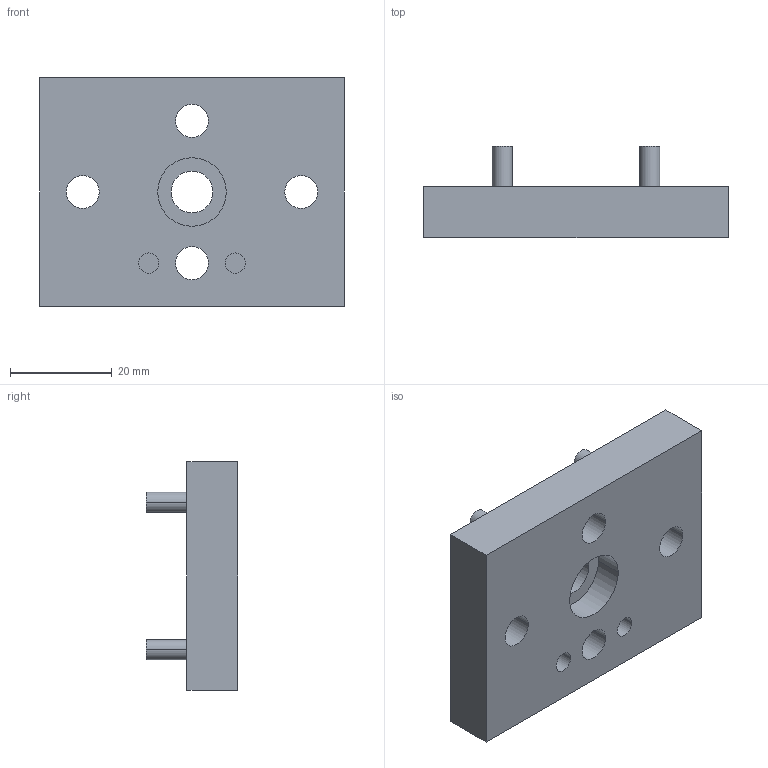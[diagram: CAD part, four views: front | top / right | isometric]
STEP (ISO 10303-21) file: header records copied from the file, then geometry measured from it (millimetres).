
FILE_DESCRIPTION((''),'2;1');
FILE_NAME('GIF0203_ASM','2002-12-27T',('Lipro doo'),('Lipro d.o.o.'),'PRO/ENGINEER BY PARAMETRIC TECHNOLOGY CORPORATION, 2001150','PRO/ENGINEER BY PARAMETRIC TECHNOLOGY CORPORATION, 2001150','');
FILE_SCHEMA(('CONFIG_CONTROL_DESIGN'));
Length unit declared in the file: millimetre
Products named in the file (3): GIF0200; GIF0100_3; GIF0203_ASM
Assembly tree (5 placements, depth 2):
  GIF0203_ASM
    GIF0200
    GIF0100_3  x4
Bounding box: 60 x 18 x 45 mm (x, y, z)
Volume: 23223.2 mm3; surface area: 10008.7 mm2
Topology: 5 solids, 5 shells, 89 faces, 204 edges, 136 vertices
Faces by surface type: cylinder 48, plane 41
Entity records: 2421 total; most frequent: DIRECTION 440, CARTESIAN_POINT 395, ORIENTED_EDGE 372, EDGE_CURVE 186, AXIS2_PLACEMENT_3D 169, VERTEX_POINT 124, VECTOR 102, LINE 102
